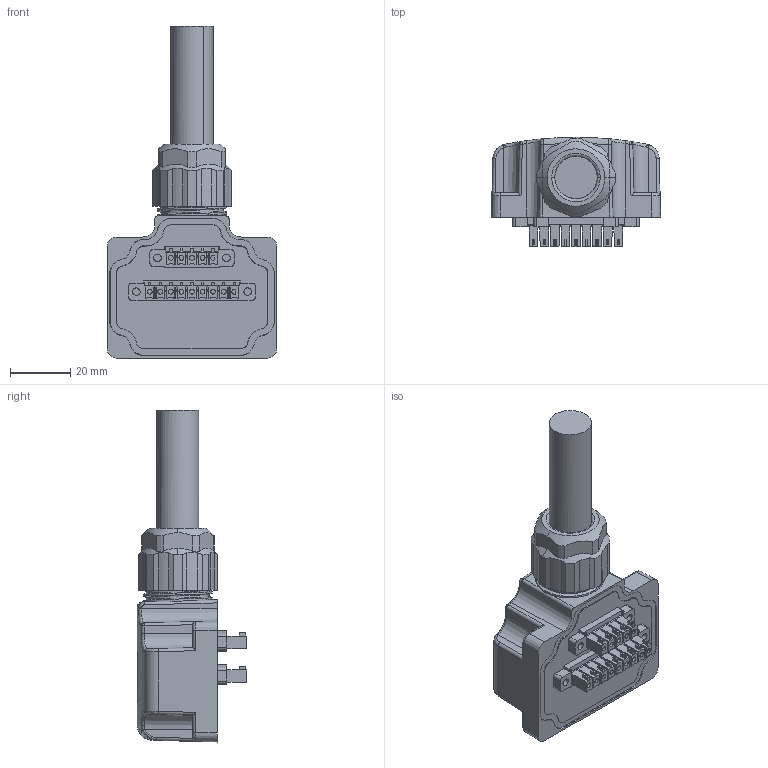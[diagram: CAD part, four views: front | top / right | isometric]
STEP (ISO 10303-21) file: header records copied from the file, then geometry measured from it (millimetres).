
FILE_DESCRIPTION (( 'STEP AP203' ), '1' );
FILE_NAME ('24T0E1.STEP', '2023-06-27T09:09:02', ( '' ), ( '' ), 'SwSTEP 2.0', 'SolidWorks 2016', '' );
FILE_SCHEMA (( 'CONFIG_CONTROL_DESIGN' ));
Length unit declared in the file: millimetre
Products named in the file (1): 24T0E1
Bounding box: 56 x 36.2 x 109.77 mm (x, y, z)
Volume: 73544.2 mm3; surface area: 16941.6 mm2
Topology: 1 solids, 23 shells, 1063 faces, 2714 edges, 1747 vertices
Faces by surface type: plane 580, cylinder 323, bspline 119, cone 41
Entity records: 36948 total; most frequent: CARTESIAN_POINT 11992, ORIENTED_EDGE 5420, DIRECTION 4833, EDGE_CURVE 2710, VERTEX_POINT 1747, AXIS2_PLACEMENT_3D 1614, LINE 1605, VECTOR 1605
